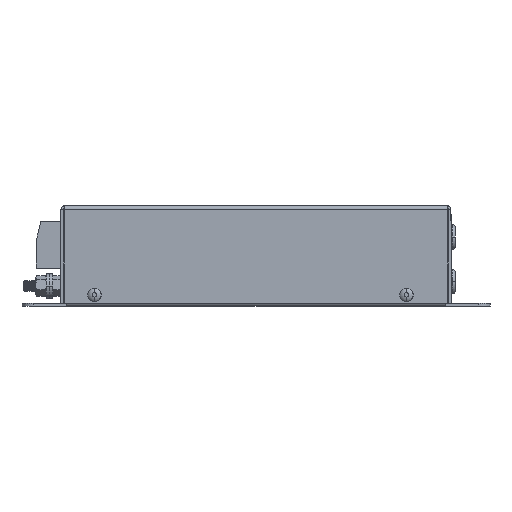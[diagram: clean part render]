
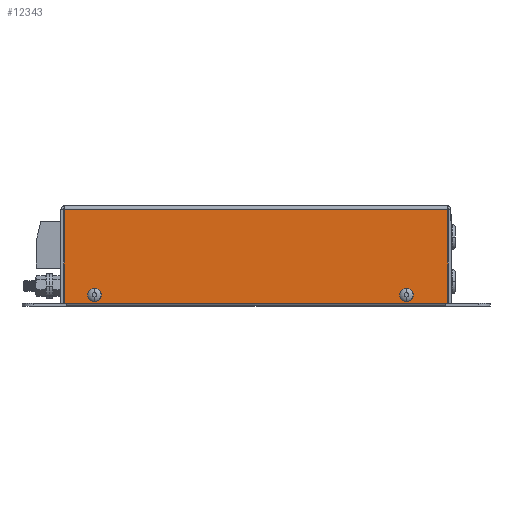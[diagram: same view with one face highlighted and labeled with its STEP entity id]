
A CAD part, top view. The second image highlights one B-rep face of the part: STEP entity #12343.
In plain terms, the highlighted planar face has unit normal (0, 0, 1).
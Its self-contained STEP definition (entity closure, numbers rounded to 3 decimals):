
#305 = VERTEX_POINT ( 'NONE', #5583 ) ;
#732 = VERTEX_POINT ( 'NONE', #7895 ) ;
#785 = LINE ( 'NONE', #1802, #11023 ) ;
#960 = FACE_OUTER_BOUND ( 'NONE', #3694, .T. ) ;
#1220 = VERTEX_POINT ( 'NONE', #9939 ) ;
#1505 = LINE ( 'NONE', #3995, #3433 ) ;
#1517 = ORIENTED_EDGE ( 'NONE', *, *, #7468, .T. ) ;
#1802 = CARTESIAN_POINT ( 'NONE',  ( 0., -42.6, 0. ) ) ;
#1850 = CARTESIAN_POINT ( 'NONE',  ( 0., -0.5, 0. ) ) ;
#1883 = EDGE_CURVE ( 'NONE', #7953, #14344, #785, .T. ) ;
#1941 = CARTESIAN_POINT ( 'NONE',  ( 17.75, -38.8, 0. ) ) ;
#2330 = DIRECTION ( 'NONE',  ( 0., 0., 1. ) ) ;
#2467 = ORIENTED_EDGE ( 'NONE', *, *, #15272, .T. ) ;
#2480 = CARTESIAN_POINT ( 'NONE',  ( 15., -38.8, 0. ) ) ;
#2529 = DIRECTION ( 'NONE',  ( 0., 0., -1. ) ) ;
#2581 = DIRECTION ( 'NONE',  ( 0., -1., 0. ) ) ;
#2632 = ORIENTED_EDGE ( 'NONE', *, *, #7569, .T. ) ;
#2680 = EDGE_CURVE ( 'NONE', #7953, #1220, #1505, .T. ) ;
#2693 = DIRECTION ( 'NONE',  ( 0., 0., -1. ) ) ;
#2729 = DIRECTION ( 'NONE',  ( 0., 1., 0. ) ) ;
#2909 = ORIENTED_EDGE ( 'NONE', *, *, #2680, .T. ) ;
#2911 = AXIS2_PLACEMENT_3D ( 'NONE', #2480, #2529, #13238 ) ;
#3053 = VERTEX_POINT ( 'NONE', #1941 ) ;
#3230 = CARTESIAN_POINT ( 'NONE',  ( 12.25, -38.8, 0. ) ) ;
#3431 = FACE_BOUND ( 'NONE', #8553, .T. ) ;
#3433 = VECTOR ( 'NONE', #2729, 1000. ) ;
#3544 = DIRECTION ( 'NONE',  ( 0., -1., 0. ) ) ;
#3694 = EDGE_LOOP ( 'NONE', ( #6935, #6310, #2909, #8766 ) ) ;
#3995 = CARTESIAN_POINT ( 'NONE',  ( 173.623, 0., 0. ) ) ;
#4180 = VERTEX_POINT ( 'NONE', #3230 ) ;
#4277 = ORIENTED_EDGE ( 'NONE', *, *, #8356, .T. ) ;
#5021 = CIRCLE ( 'NONE', #6882, 2.75 ) ;
#5056 = AXIS2_PLACEMENT_3D ( 'NONE', #9891, #11103, #2581 ) ;
#5344 = AXIS2_PLACEMENT_3D ( 'NONE', #9602, #2330, #3544 ) ;
#5583 = CARTESIAN_POINT ( 'NONE',  ( 1.377, -0.5, 0. ) ) ;
#5688 = CIRCLE ( 'NONE', #5793, 2.75 ) ;
#5793 = AXIS2_PLACEMENT_3D ( 'NONE', #9934, #8885, #14739 ) ;
#6310 = ORIENTED_EDGE ( 'NONE', *, *, #1883, .F. ) ;
#6318 = LINE ( 'NONE', #6430, #10863 ) ;
#6430 = CARTESIAN_POINT ( 'NONE',  ( 1.377, 0., 0. ) ) ;
#6882 = AXIS2_PLACEMENT_3D ( 'NONE', #7688, #2693, #7901 ) ;
#6935 = ORIENTED_EDGE ( 'NONE', *, *, #10429, .F. ) ;
#7468 = EDGE_CURVE ( 'NONE', #3053, #4180, #13706, .T. ) ;
#7474 = VERTEX_POINT ( 'NONE', #14387 ) ;
#7569 = EDGE_CURVE ( 'NONE', #4180, #3053, #8843, .T. ) ;
#7659 = DIRECTION ( 'NONE',  ( 0., 1., 0. ) ) ;
#7688 = CARTESIAN_POINT ( 'NONE',  ( 155., -38.8, 0. ) ) ;
#7807 = DIRECTION ( 'NONE',  ( -1., 0., 0. ) ) ;
#7895 = CARTESIAN_POINT ( 'NONE',  ( 157.75, -38.8, 0. ) ) ;
#7901 = DIRECTION ( 'NONE',  ( 0., -1., 0. ) ) ;
#7953 = VERTEX_POINT ( 'NONE', #11306 ) ;
#8174 = EDGE_LOOP ( 'NONE', ( #1517, #2632 ) ) ;
#8356 = EDGE_CURVE ( 'NONE', #7474, #732, #5021, .T. ) ;
#8399 = VECTOR ( 'NONE', #11750, 1000. ) ;
#8553 = EDGE_LOOP ( 'NONE', ( #2467, #4277 ) ) ;
#8766 = ORIENTED_EDGE ( 'NONE', *, *, #11533, .T. ) ;
#8843 = CIRCLE ( 'NONE', #5056, 2.75 ) ;
#8885 = DIRECTION ( 'NONE',  ( 0., 0., -1. ) ) ;
#9107 = FACE_BOUND ( 'NONE', #8174, .T. ) ;
#9602 = CARTESIAN_POINT ( 'NONE',  ( 0., 0., 0. ) ) ;
#9891 = CARTESIAN_POINT ( 'NONE',  ( 15., -38.8, 0. ) ) ;
#9934 = CARTESIAN_POINT ( 'NONE',  ( 155., -38.8, 0. ) ) ;
#9939 = CARTESIAN_POINT ( 'NONE',  ( 173.623, -0.5, 0. ) ) ;
#10429 = EDGE_CURVE ( 'NONE', #14344, #305, #6318, .T. ) ;
#10863 = VECTOR ( 'NONE', #7659, 1000. ) ;
#11023 = VECTOR ( 'NONE', #7807, 1000. ) ;
#11103 = DIRECTION ( 'NONE',  ( 0., 0., -1. ) ) ;
#11306 = CARTESIAN_POINT ( 'NONE',  ( 173.623, -42.6, 0. ) ) ;
#11533 = EDGE_CURVE ( 'NONE', #1220, #305, #14178, .T. ) ;
#11750 = DIRECTION ( 'NONE',  ( -1., 0., 0. ) ) ;
#12343 = ADVANCED_FACE ( 'NONE', ( #3431, #9107, #960 ), #15555, .T. ) ;
#13238 = DIRECTION ( 'NONE',  ( 0., -1., 0. ) ) ;
#13706 = CIRCLE ( 'NONE', #2911, 2.75 ) ;
#14132 = CARTESIAN_POINT ( 'NONE',  ( 1.377, -42.6, 0. ) ) ;
#14178 = LINE ( 'NONE', #1850, #8399 ) ;
#14344 = VERTEX_POINT ( 'NONE', #14132 ) ;
#14387 = CARTESIAN_POINT ( 'NONE',  ( 152.25, -38.8, 0. ) ) ;
#14739 = DIRECTION ( 'NONE',  ( 0., -1., 0. ) ) ;
#15272 = EDGE_CURVE ( 'NONE', #732, #7474, #5688, .T. ) ;
#15555 = PLANE ( 'NONE',  #5344 ) ;
